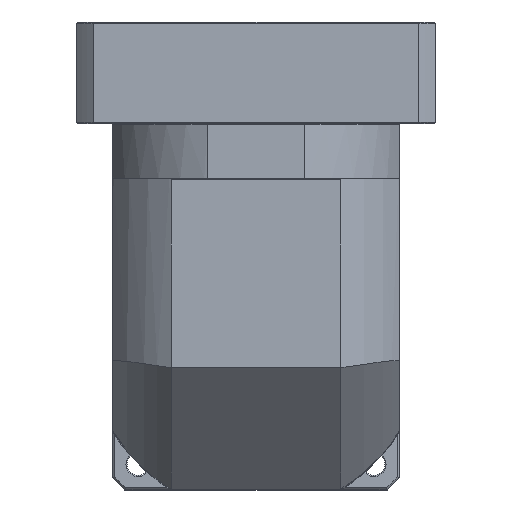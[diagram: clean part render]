
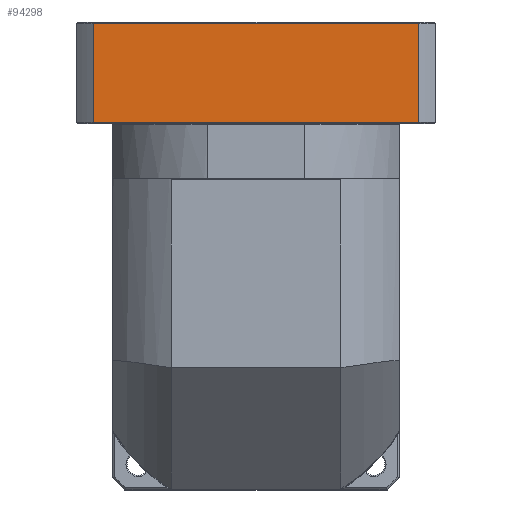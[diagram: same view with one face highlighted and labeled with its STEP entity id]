
A CAD part, top view. The second image highlights one B-rep face of the part: STEP entity #94298.
In plain terms, the highlighted planar face has unit normal (0, 0, 1).
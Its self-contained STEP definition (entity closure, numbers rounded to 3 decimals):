
#4627 = VECTOR ( 'NONE', #22820, 1000. ) ;
#7188 = EDGE_CURVE ( 'NONE', #29567, #64113, #41302, .T. ) ;
#8699 = ORIENTED_EDGE ( 'NONE', *, *, #19434, .F. ) ;
#13324 = DIRECTION ( 'NONE',  ( 1., 0., 0. ) ) ;
#18372 = CARTESIAN_POINT ( 'NONE',  ( -6.426, 242.405, 108.978 ) ) ;
#18731 = CARTESIAN_POINT ( 'NONE',  ( -6.426, 193.405, 108.978 ) ) ;
#19185 = ORIENTED_EDGE ( 'NONE', *, *, #88744, .F. ) ;
#19434 = EDGE_CURVE ( 'NONE', #131745, #68398, #66832, .T. ) ;
#22067 = CARTESIAN_POINT ( 'NONE',  ( 2.082, 242.905, 108.978 ) ) ;
#22820 = DIRECTION ( 'NONE',  ( -1., 0., 0. ) ) ;
#29567 = VERTEX_POINT ( 'NONE', #18731 ) ;
#33897 = CARTESIAN_POINT ( 'NONE',  ( 2.082, 193.405, 108.978 ) ) ;
#34282 = LINE ( 'NONE', #51820, #99683 ) ;
#40316 = PLANE ( 'NONE',  #78490 ) ;
#41302 = LINE ( 'NONE', #33897, #4627 ) ;
#51740 = FACE_OUTER_BOUND ( 'NONE', #56697, .T. ) ;
#51820 = CARTESIAN_POINT ( 'NONE',  ( -167.411, -149.9, 108.978 ) ) ;
#55419 = VECTOR ( 'NONE', #85641, 1000. ) ;
#56697 = EDGE_LOOP ( 'NONE', ( #19185, #103249, #58505, #8699 ) ) ;
#58505 = ORIENTED_EDGE ( 'NONE', *, *, #87800, .F. ) ;
#63326 = CARTESIAN_POINT ( 'NONE',  ( -167.411, 242.405, 108.978 ) ) ;
#64113 = VERTEX_POINT ( 'NONE', #92877 ) ;
#66832 = LINE ( 'NONE', #123856, #129175 ) ;
#68398 = VERTEX_POINT ( 'NONE', #18372 ) ;
#78490 = AXIS2_PLACEMENT_3D ( 'NONE', #22067, #102754, #82665 ) ;
#82665 = DIRECTION ( 'NONE',  ( 0., -1., 0. ) ) ;
#83045 = DIRECTION ( 'NONE',  ( 0., 1., 0. ) ) ;
#85641 = DIRECTION ( 'NONE',  ( 0., -1., 0. ) ) ;
#87800 = EDGE_CURVE ( 'NONE', #68398, #29567, #104992, .T. ) ;
#88744 = EDGE_CURVE ( 'NONE', #64113, #131745, #34282, .T. ) ;
#92877 = CARTESIAN_POINT ( 'NONE',  ( -167.411, 193.405, 108.978 ) ) ;
#94298 = ADVANCED_FACE ( 'NONE', ( #51740 ), #40316, .F. ) ;
#99683 = VECTOR ( 'NONE', #83045, 1000. ) ;
#102754 = DIRECTION ( 'NONE',  ( 0., 0., -1. ) ) ;
#103249 = ORIENTED_EDGE ( 'NONE', *, *, #7188, .F. ) ;
#104992 = LINE ( 'NONE', #105739, #55419 ) ;
#105739 = CARTESIAN_POINT ( 'NONE',  ( -6.426, -149.9, 108.978 ) ) ;
#123856 = CARTESIAN_POINT ( 'NONE',  ( -15.918, 242.405, 108.978 ) ) ;
#129175 = VECTOR ( 'NONE', #13324, 1000. ) ;
#131745 = VERTEX_POINT ( 'NONE', #63326 ) ;
